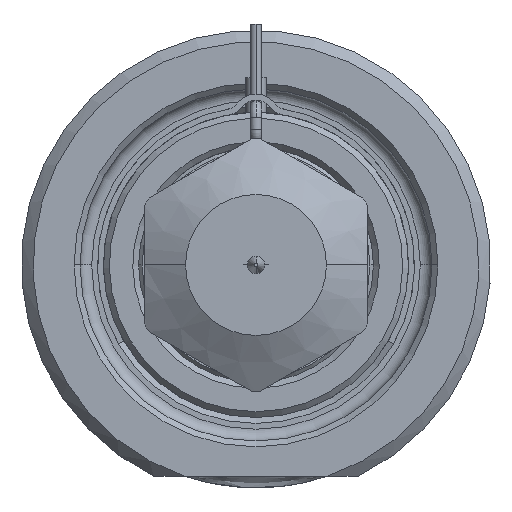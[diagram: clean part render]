
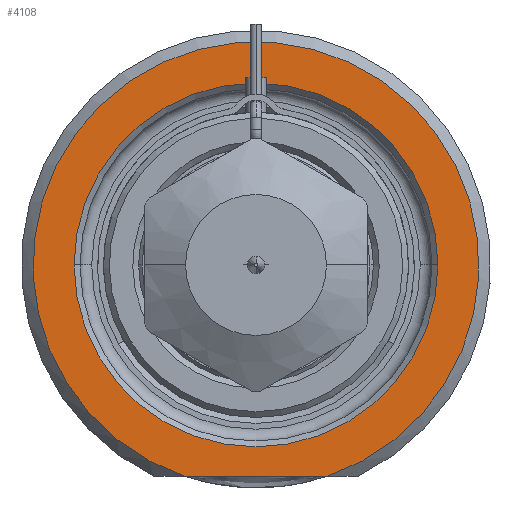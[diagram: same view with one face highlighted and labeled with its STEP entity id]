
A CAD part, front view. The second image highlights one B-rep face of the part: STEP entity #4108.
In plain terms, the highlighted planar face has unit normal (0, -1, 0).
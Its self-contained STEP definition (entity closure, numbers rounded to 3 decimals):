
#1=DIRECTION('',(1.,0.,0.));
#2=VECTOR('',#1,12.166);
#3=CARTESIAN_POINT('',(-6.083,0.,-18.));
#4=LINE('',#3,#2);
#5=CARTESIAN_POINT('',(0.,0.,0.));
#6=DIRECTION('',(0.,1.,0.));
#7=DIRECTION('',(-1.,0.,0.));
#8=AXIS2_PLACEMENT_3D('',#5,#6,#7);
#10=CARTESIAN_POINT('',(0.,0.,0.));
#11=DIRECTION('',(0.,1.,0.));
#12=DIRECTION('',(1.,0.,0.));
#13=AXIS2_PLACEMENT_3D('',#10,#11,#12);
#264=CARTESIAN_POINT('',(0.,0.,0.));
#265=DIRECTION('',(0.,-1.,0.));
#266=DIRECTION('',(0.32,0.,-0.947));
#267=AXIS2_PLACEMENT_3D('',#264,#265,#266);
#3467=CARTESIAN_POINT('',(-15.5,0.,0.));
#3468=CARTESIAN_POINT('',(15.5,0.,0.));
#3469=VERTEX_POINT('',#3467);
#3470=VERTEX_POINT('',#3468);
#3525=CARTESIAN_POINT('',(-6.083,0.,-18.));
#3526=CARTESIAN_POINT('',(6.083,0.,-18.));
#3527=VERTEX_POINT('',#3525);
#3528=VERTEX_POINT('',#3526);
#4091=CARTESIAN_POINT('',(0.,0.,0.));
#4092=DIRECTION('',(0.,-1.,0.));
#4093=DIRECTION('',(1.,0.,0.));
#4094=AXIS2_PLACEMENT_3D('',#4091,#4092,#4093);
#4095=PLANE('',#4094);
#4097=ORIENTED_EDGE('',*,*,#4096,.F.);
#4099=ORIENTED_EDGE('',*,*,#4098,.F.);
#4100=EDGE_LOOP('',(#4097,#4099));
#4101=FACE_OUTER_BOUND('',#4100,.F.);
#4103=ORIENTED_EDGE('',*,*,#4102,.F.);
#4105=ORIENTED_EDGE('',*,*,#4104,.F.);
#4106=EDGE_LOOP('',(#4103,#4105));
#4107=FACE_BOUND('',#4106,.F.);
#4108=ADVANCED_FACE('',(#4101,#4107),#4095,.T.);
#9=CIRCLE('',#8,15.5);
#14=CIRCLE('',#13,15.5);
#268=CIRCLE('',#267,19.);
#4096=EDGE_CURVE('',#3527,#3528,#4,.T.);
#4098=EDGE_CURVE('',#3528,#3527,#268,.T.);
#4102=EDGE_CURVE('',#3469,#3470,#9,.T.);
#4104=EDGE_CURVE('',#3470,#3469,#14,.T.);
